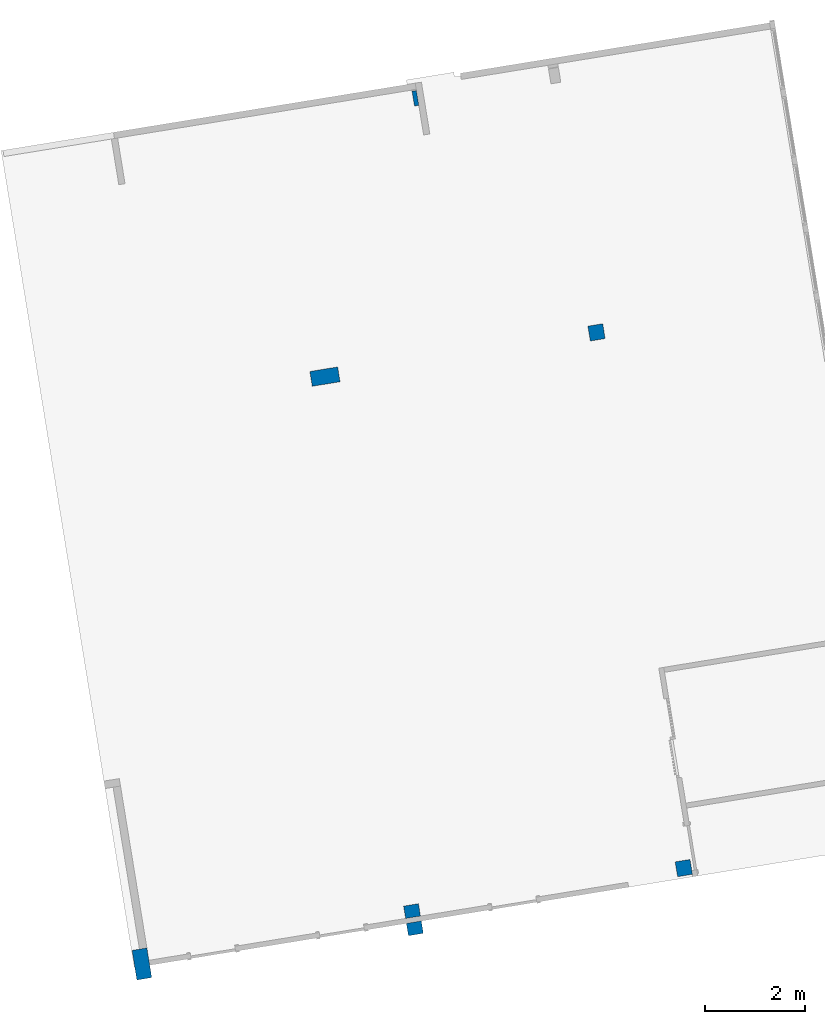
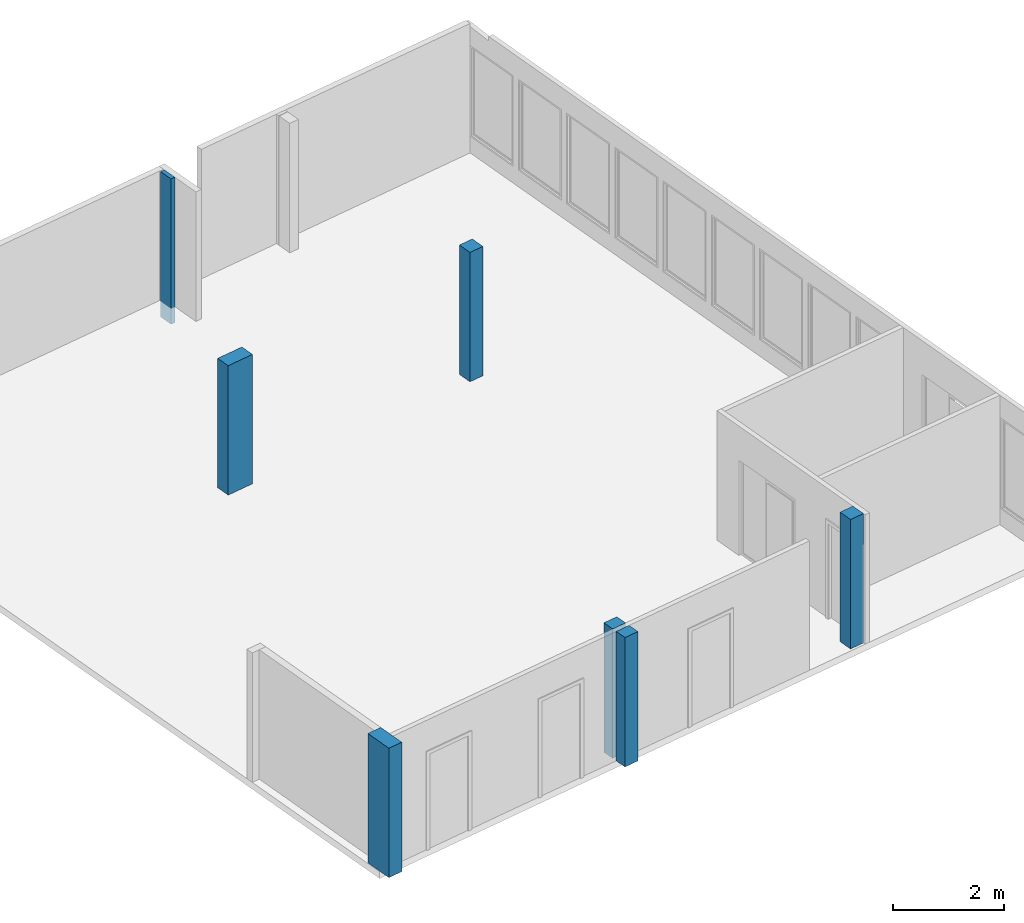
# One storey, part 1 of 5: 6 columns.
"""IFC2X3 building model written with IfcOpenShell, lengths in millimetres."""

from ifc_helpers import new_model, entity, si_unit, converted_unit, derived_unit, direction, frame, frame_2d, origin, origin_with_axes, origin_2d_with_axis, place, context, subcontext, project, spatial, rectangle, extrude, source, transform, mapped, material, type_object, element, save


model = new_model("IFC2X3")

# Units and contexts
model_context = context("Model", 3, precision=0.01, world=origin(), true_north=direction((6.12323399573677e-17, 1.0)))
plan_context = context("Plan", 3, precision=1e-05, world=origin_with_axes())
body_context = subcontext(model_context, "Body", "Model", "MODEL_VIEW")
ifc_project = project(units=[converted_unit("PLANEANGLEUNIT", "DEGREE", entity("IfcPositiveLengthMeasure", 0.0174532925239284), si_unit("PLANEANGLEUNIT", "RADIAN"), dimensions=[0, 0, 0, 0, 0, 0, 0]), si_unit("AREAUNIT", "SQUARE_METRE"), si_unit("LENGTHUNIT", "METRE", prefix="MILLI"), si_unit("MASSUNIT", "GRAM", prefix="KILO"), si_unit("POWERUNIT", "WATT"), si_unit("PRESSUREUNIT", "PASCAL", prefix="KILO"), si_unit("FORCEUNIT", "NEWTON", prefix="KILO"), si_unit("ELECTRICVOLTAGEUNIT", "VOLT"), si_unit("ELECTRICCURRENTUNIT", "AMPERE"), si_unit("THERMODYNAMICTEMPERATUREUNIT", "DEGREE_CELSIUS"), si_unit("TIMEUNIT", "SECOND"), si_unit("VOLUMEUNIT", "CUBIC_METRE"), derived_unit("LINEARVELOCITYUNIT", [(si_unit("LENGTHUNIT", "METRE"), 1), (si_unit("TIMEUNIT", "SECOND"), -1)]), derived_unit("VOLUMETRICFLOWRATEUNIT", [(si_unit("VOLUMEUNIT", "CUBIC_METRE"), 1), (si_unit("TIMEUNIT", "SECOND"), -1)]), derived_unit("THERMALTRANSMITTANCEUNIT", [(si_unit("POWERUNIT", "WATT"), 1), (si_unit("THERMODYNAMICTEMPERATUREUNIT", "KELVIN"), -1), (si_unit("AREAUNIT", "SQUARE_METRE"), -1)]), derived_unit("SOUNDPRESSUREUNIT", [(si_unit("PRESSUREUNIT", "PASCAL"), 1)])], contexts=[model_context, plan_context])

# Site, building, storey
site_placement = place(None, frame((118326.676922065, 1366174.45681126, 48360.0), z_axis=(0.0, 0.0, 1.0), x_axis=(0.160815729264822, -0.986984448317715, 0.0)))
site = spatial("IfcSite", under=ifc_project, at=site_placement, Name="Default", CompositionType="ELEMENT")
building_placement = place(site_placement, origin_with_axes())
building = spatial("IfcBuilding", under=site, at=building_placement, Name="br002", CompositionType="ELEMENT")
storey_placement = place(building_placement, frame((0.0, 0.0, 3850.0), z_axis=(0.0, 0.0, 1.0), x_axis=(1.0, 0.0, 0.0)))
storey = spatial("IfcBuildingStorey", under=building, at=storey_placement, Name="H01", CompositionType="ELEMENT", Elevation=3849.99999999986)

# Columns
ifc_material_1 = material(Name="<Unnamed>")
column_type_1 = type_object("IfcColumnType", Name="M_Rectangular Column:563 x 300 mm", PredefinedType="COLUMN", material=ifc_material_1)
shared_shape_1 = source(origin(), body_context, "Body", "SweptSolid", [
    extrude(rectangle(XDim=300.0, YDim=562.999999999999, at=origin_2d_with_axis()), frame((0.0, 0.0, 4200.0), z_axis=(0.0, 0.0, 1.0), x_axis=(-1.0, 0.0, 0.0)), (0.0, 0.0, 1.0), 2850.00000000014),
])
column_1_placement = place(storey_placement, frame((30449.1710782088, 6727.17632785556, -3850.0), z_axis=(0.0, 0.0, 1.0), x_axis=(1.0, 0.0, 0.0)))
element("IfcColumn", 1, at=column_1_placement, inside=storey, type_object=column_type_1, material=ifc_material_1, Name="M_Rectangular Column:563 x 300 mm", ObjectType="M_Rectangular Column:563 x 300 mm", context=body_context, shape_type="MappedRepresentation", body=[
    mapped(shared_shape_1, transform((0.0, 0.0, 0.0), scale=1.0)),
])
ifc_material_2 = material(Name="Metal Deck")
column_type_2 = type_object("IfcColumnType", Name="M_Rectangular Column:600 x 300 mm", PredefinedType="COLUMN", material=ifc_material_2)
shared_shape_2 = source(origin(), body_context, "Body", "SweptSolid", [
    extrude(rectangle(XDim=300.0, YDim=600.000000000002, at=frame_2d((1.22213350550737e-12, 22.7272727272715), x_axis=(1.0, 0.0))), frame((41471.8983509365, 1227.17632785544, 4200.0), z_axis=(0.0, 0.0, 1.0), x_axis=(0.0, 1.0, 0.0)), (0.0, 0.0, 1.0), 2850.00000000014),
])
column_2_placement = place(storey_placement, frame((0.0, 0.0, -3850.0), z_axis=(0.0, 0.0, 1.0), x_axis=(1.0, 0.0, 0.0)))
element("IfcColumn", 2, at=column_2_placement, inside=storey, type_object=column_type_2, material=ifc_material_2, Name="M_Rectangular Column:600 x 300 mm", ObjectType="M_Rectangular Column:600 x 300 mm", context=body_context, shape_type="MappedRepresentation", body=[
    mapped(shared_shape_2, transform((0.0, 0.0, 0.0), scale=1.0)),
])
ifc_material_3 = material(Name="Gypsum Wall Board")
column_type_3 = type_object("IfcColumnType", Name="M_Rectangular Column:600 x 300 mm", PredefinedType="COLUMN", material=ifc_material_3)
shared_shape_3 = source(origin(), body_context, "Body", "SweptSolid", [
    extrude(rectangle(XDim=249.999999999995, YDim=300.0, at=frame_2d((41.6666666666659, -5.40012479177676e-13), x_axis=(1.0, 0.0))), frame((41665.8377448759, 6727.17632785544, 4200.0), z_axis=(0.0, 0.0, 1.0), x_axis=(-1.0, 0.0, 0.0)), (0.0, 0.0, 1.0), 2850.00000000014),
    extrude(rectangle(XDim=250.000000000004, YDim=300.0, at=frame_2d((4.33431068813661e-12, 5.40012479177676e-13), x_axis=(1.0, 0.0))), frame((41274.1710782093, 6727.17632785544, 4200.0)), (0.0, 0.0, 1.0), 2850.00000000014),
])
column_3_placement = place(storey_placement, frame((0.0, 0.0, -3850.0), z_axis=(0.0, 0.0, 1.0), x_axis=(1.0, 0.0, 0.0)))
element("IfcColumn", 3, at=column_3_placement, inside=storey, type_object=column_type_3, material=ifc_material_3, Name="M_Rectangular Column:600 x 300 mm", ObjectType="M_Rectangular Column:600 x 300 mm", context=body_context, shape_type="MappedRepresentation", body=[
    mapped(shared_shape_3, transform((0.0, 0.0, 0.0), scale=1.0)),
])
ifc_material_4 = material(Name="Concrete, Cast In Situ")
column_type_4 = type_object("IfcColumnType", Name="M_Rectangular Column:200 x 300 mm", PredefinedType="COLUMN", material=ifc_material_4)
shared_shape_4 = source(origin(), body_context, "Body", "SweptSolid", [
    extrude(rectangle(XDim=87.3663800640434, YDim=300.000000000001, at=frame_2d((5.43565192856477e-13, 0.0), x_axis=(1.0, 0.0))), frame((25249.1710782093, 9407.29773480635, 3850.0), z_axis=(0.0, 0.0, 1.0), x_axis=(0.0, 1.0, 0.0)), (0.0, 0.0, 1.0), 3200.00000000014),
])
column_4_placement = place(storey_placement, frame((0.0, 0.0, -3850.0), z_axis=(0.0, 0.0, 1.0), x_axis=(1.0, 0.0, 0.0)))
element("IfcColumn", 4, at=column_4_placement, inside=storey, type_object=column_type_4, material=ifc_material_4, Name="M_Rectangular Column:200 x 300 mm", ObjectType="M_Rectangular Column:200 x 300 mm", context=body_context, shape_type="MappedRepresentation", body=[
    mapped(shared_shape_4, transform((0.0, 0.0, 0.0), scale=1.0)),
])
column_type_5 = type_object("IfcColumnType", Name="M_Rectangular Column:300 x 300 mm", PredefinedType="COLUMN", material=ifc_material_4)
shared_shape_5 = source(origin(), body_context, "Body", "SweptSolid", [
    extrude(rectangle(XDim=300.0, YDim=299.999999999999, at=origin_2d_with_axis()), frame((0.0, 0.0, 4200.0), z_axis=(0.0, 0.0, 1.0), x_axis=(-1.0, 0.0, 0.0)), (0.0, 0.0, 1.0), 2850.00000000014),
])
column_5_placement = place(storey_placement, frame((30449.1710782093, 12227.1763278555, -3850.0), z_axis=(0.0, 0.0, 1.0), x_axis=(1.0, 0.0, 0.0)))
element("IfcColumn", 5, at=column_5_placement, inside=storey, type_object=column_type_5, material=ifc_material_4, Name="M_Rectangular Column:300 x 300 mm", ObjectType="M_Rectangular Column:300 x 300 mm", context=body_context, shape_type="MappedRepresentation", body=[
    mapped(shared_shape_5, transform((0.0, 0.0, 0.0), scale=1.0)),
])
column_type_6 = type_object("IfcColumnType", Name="M_Rectangular Column:300 x 300 mm", PredefinedType="COLUMN", material=ifc_material_4)
shared_shape_6 = source(origin(), body_context, "Body", "SweptSolid", [
    extrude(rectangle(XDim=300.000000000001, YDim=299.999999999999, at=frame_2d((15.0000000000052, 30.0000000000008), x_axis=(1.0, 0.0))), frame((41314.1710782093, 12257.1763278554, 4200.0), z_axis=(0.0, 0.0, 1.0), x_axis=(-1.0, 0.0, 0.0)), (0.0, 0.0, 1.0), 2850.00000000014),
])
column_6_placement = place(storey_placement, frame((0.0, 0.0, -3850.0), z_axis=(0.0, 0.0, 1.0), x_axis=(1.0, 0.0, 0.0)))
element("IfcColumn", 6, at=column_6_placement, inside=storey, type_object=column_type_6, material=ifc_material_4, Name="M_Rectangular Column:300 x 300 mm", ObjectType="M_Rectangular Column:300 x 300 mm", context=body_context, shape_type="MappedRepresentation", body=[
    mapped(shared_shape_6, transform((0.0, 0.0, 0.0), scale=1.0)),
])

save(model, "model.ifc")
